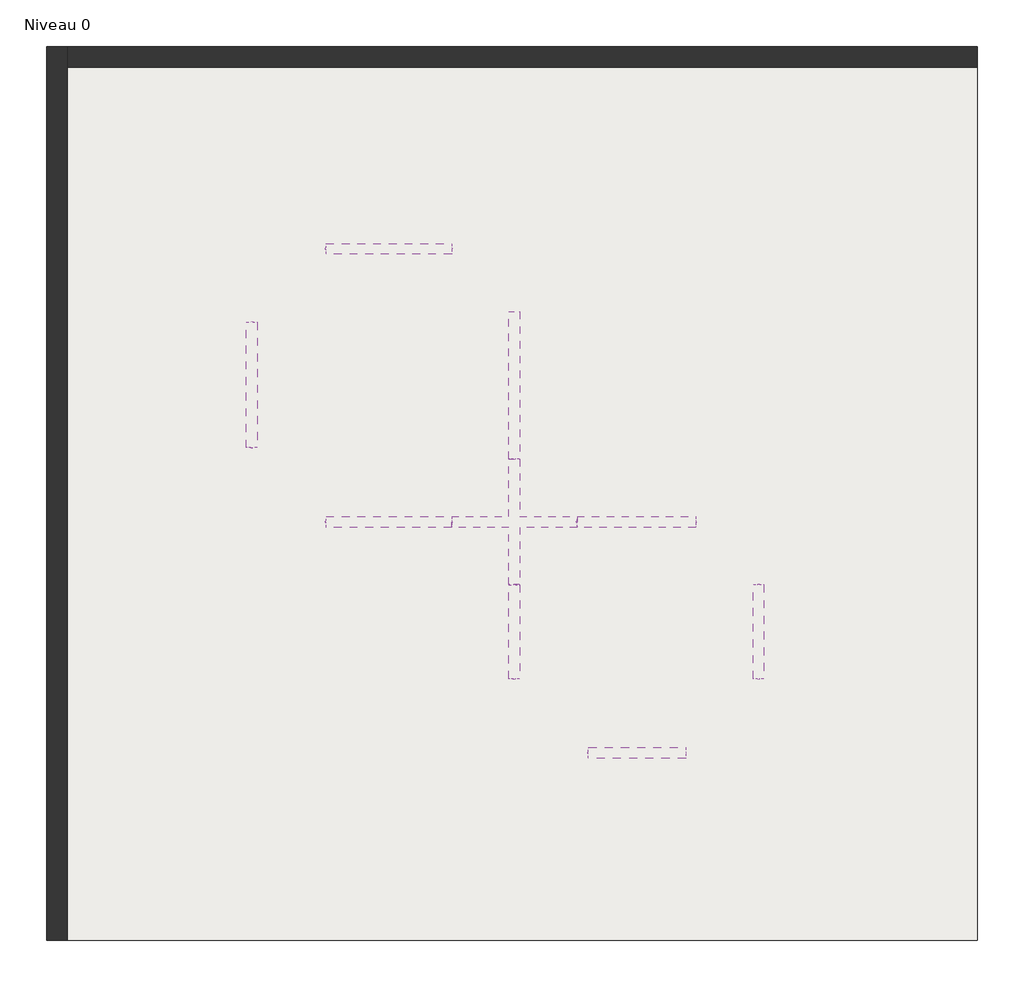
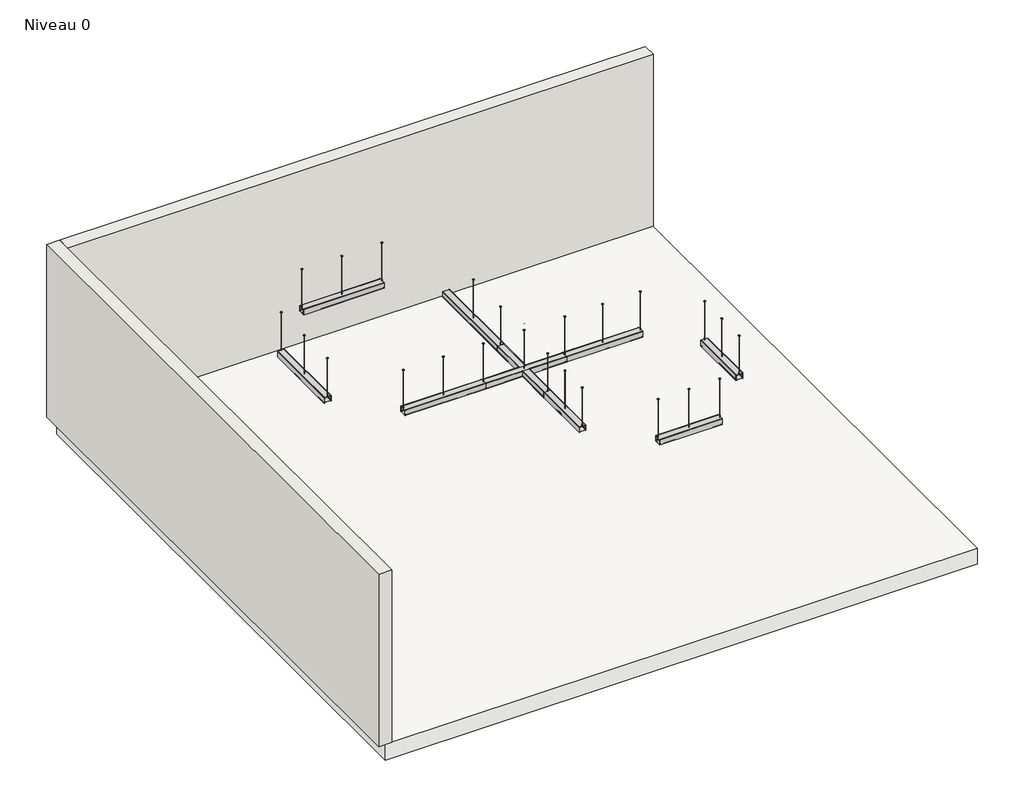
# One storey, incomplete: 9 light fixtures, 2 walls, 1 slab.
"""IFC4 building model written with IfcOpenShell, lengths in millimetres."""

from ifc_helpers import new_model, si_unit, frame, origin, origin_with_axes, place, context, project, spatial, polyline, outline, extrude, faceted_brep, transform, mapped, element, save
from components import lighting_pendant_axis_sketch_4_x_corner_sk4_pendant_custom_45237788, lighting_pendant_axis_sketch_4_x_corner_sk4_pendant_custom_94ffdf92, lighting_pendant_axis_sketch_4_b7173194, lighting_pendant_axis_sketch_4_e7b3e683, lighting_pendant_axis_sketch_4_4e6c729b, lighting_pendant_axis_sketch_4_c0096c62, lighting_pendant_axis_sketch_4_24adb191

model = new_model("IFC4")

# Units and contexts
model_context = context("Model", 3, world=origin())
ifc_project = project(units=[si_unit("LENGTHUNIT", "METRE", prefix="MILLI")], contexts=[model_context])

# Site, building, storey
site = spatial("IfcSite", under=ifc_project)
building = spatial("IfcBuilding", under=site)
storey = spatial("IfcBuildingStorey", under=building, Name="Niveau 0", Elevation=0.0)

# Light fixtures
placement = place(None, origin())
lighting_pendant_axis_sketch_4_x_corner_sk4_pendant_custom_shape = lighting_pendant_axis_sketch_4_x_corner_sk4_pendant_custom_45237788(model_context)
lighting_pendant_axis_sketch_4_x_corner_sk4_pendant_custom_2_shape = lighting_pendant_axis_sketch_4_x_corner_sk4_pendant_custom_94ffdf92(model_context)
element("IfcLightFixture", 1, ObjectType="Lighting-Pendant-Axis-Sketch 4_X Corner : SK4 Pendant Custom Corner", at=placement, inside=storey, context=model_context, shape_type="MappedRepresentation", body=[
    mapped(lighting_pendant_axis_sketch_4_x_corner_sk4_pendant_custom_shape, transform((-1852.5527515, -2628.7184645, 2600.0), x_axis=(1.0, 0.0, 0.0), y_axis=(0.0, -1.0, 0.0), z_axis=(0.0, 0.0, -1.0))),
    mapped(lighting_pendant_axis_sketch_4_x_corner_sk4_pendant_custom_2_shape, transform((-1852.5527515, -2628.7184645, 2600.0), x_axis=(1.0, 0.0, 0.0), y_axis=(0.0, -1.0, 0.0), z_axis=(0.0, 0.0, -1.0))),
])
lighting_pendant_axis_sketch_4_shape = lighting_pendant_axis_sketch_4_b7173194(model_context)
element("IfcLightFixture", 2, ObjectType="Lighting-Pendant-Axis-Sketch_4 : SK4PDI-1400-1400-SO-SO-80-35", at=placement, inside=storey, context=model_context, shape_type="MappedRepresentation", body=[
    mapped(lighting_pendant_axis_sketch_4_shape, transform((-3071.7484158, 23.0415355, 2600.0), x_axis=(1.0, 0.0, 0.0), y_axis=(0.0, -1.0, 0.0), z_axis=(0.0, 0.0, -1.0))),
])
element("IfcLightFixture", 3, ObjectType="Lighting-Pendant-Axis-Sketch_4 : SK4PDI-1400-1400-SO-SO-80-35", at=placement, inside=storey, context=model_context, shape_type="MappedRepresentation", body=[
    mapped(lighting_pendant_axis_sketch_4_shape, transform((-4402.2047515, -1298.2664645, 2600.0), x_axis=(0.0, 1.0, 0.0), y_axis=(1.0, 0.0, 0.0), z_axis=(0.0, 0.0, -1.0))),
])
element("IfcLightFixture", 4, ObjectType="Lighting-Pendant-Axis-Sketch_4 : SK4PDI-1400-1400-SO-SO-80-35", at=placement, inside=storey, context=model_context, shape_type="MappedRepresentation", body=[
    mapped(lighting_pendant_axis_sketch_4_shape, transform((-3071.7527515, -2628.7184645, 2600.0), x_axis=(1.0, 0.0, 0.0), y_axis=(0.0, -1.0, 0.0), z_axis=(0.0, 0.0, -1.0))),
])
lighting_pendant_axis_sketch_4_2_shape = lighting_pendant_axis_sketch_4_e7b3e683(model_context)
element("IfcLightFixture", 5, ObjectType="Lighting-Pendant-Axis-Sketch_4 : SK4PDI-1400-1400-SO-SO-80-35", at=placement, inside=storey, context=model_context, shape_type="MappedRepresentation", body=[
    mapped(lighting_pendant_axis_sketch_4_2_shape, transform((-1852.5527515, -1302.8384645, 2600.0), x_axis=(0.0, 1.0, 0.0), y_axis=(1.0, 0.0, 0.0), z_axis=(0.0, 0.0, -1.0))),
])
lighting_pendant_axis_sketch_4_3_shape = lighting_pendant_axis_sketch_4_4e6c729b(model_context)
element("IfcLightFixture", 6, ObjectType="Lighting-Pendant-Axis-Sketch_4 : SK4PDI-1400-1400-SO-SO-80-35", at=placement, inside=storey, context=model_context, shape_type="MappedRepresentation", body=[
    mapped(lighting_pendant_axis_sketch_4_3_shape, transform((517.2672485, -3695.5184645, 2600.0), x_axis=(0.0, 1.0, 0.0), y_axis=(1.0, 0.0, 0.0), z_axis=(0.0, 0.0, -1.0))),
])
element("IfcLightFixture", 7, ObjectType="Lighting-Pendant-Axis-Sketch_4 : SK4PDI-1400-1400-SO-SO-80-35", at=placement, inside=storey, context=model_context, shape_type="MappedRepresentation", body=[
    mapped(lighting_pendant_axis_sketch_4_3_shape, transform((-1852.5527515, -3697.8265798, 2600.0), x_axis=(0.0, 1.0, 0.0), y_axis=(1.0, 0.0, 0.0), z_axis=(0.0, 0.0, -1.0))),
])
lighting_pendant_axis_sketch_4_4_shape = lighting_pendant_axis_sketch_4_c0096c62(model_context)
element("IfcLightFixture", 8, ObjectType="Lighting-Pendant-Axis-Sketch_4 : SK4PDI-1400-1400-SO-SO-80-35", at=placement, inside=storey, context=model_context, shape_type="MappedRepresentation", body=[
    mapped(lighting_pendant_axis_sketch_4_4_shape, transform((-668.4047515, -2628.7184645, 2600.0), x_axis=(1.0, 0.0, 0.0), y_axis=(0.0, -1.0, 0.0), z_axis=(0.0, 0.0, -1.0))),
])
lighting_pendant_axis_sketch_4_5_shape = lighting_pendant_axis_sketch_4_24adb191(model_context)
element("IfcLightFixture", 9, ObjectType="Lighting-Pendant-Axis-Sketch_4 : SK4PDI-1400-1400-SO-SO-80-35", at=placement, inside=storey, context=model_context, shape_type="MappedRepresentation", body=[
    mapped(lighting_pendant_axis_sketch_4_5_shape, transform((-660.7813066, -4873.5704645, 2600.0), x_axis=(1.0, 0.0, 0.0), y_axis=(0.0, -1.0, 0.0), z_axis=(0.0, 0.0, -1.0))),
])

# Slab
element("IfcSlab", 10, ObjectType="Dalle en béton - 250 mm", at=placement, inside=storey, context=model_context, shape_type="SweptSolid", body=[
    extrude(outline(polyline([(2643.9187103, 1889.1844532), (2643.9187103, -6692.8155468), (-6295.2812897, -6692.8155468), (-6295.2812897, 1889.1844532), (2643.9187103, 1889.1844532)])), frame((0.0, 0.0, -250.0), z_axis=(0.0, 0.0, 1.0), x_axis=(1.0, 0.0, 0.0)), (0.0, 0.0, 1.0), 250.0),
])

# Walls
element("IfcWall", 11, ObjectType="Générique - Ext. 200 mm", at=placement, inside=storey, context=model_context, shape_type="Brep", body=[
    faceted_brep([(-6195.2812897, -6692.8155468, 0.0), (-6195.2812897, 1789.1844532, 0.0), (-6195.2812897, 1989.1844532, 0.0), (-6195.2812897, 1989.1844532, 2750.0), (-6195.2812897, 1789.1844532, 2750.0), (-6195.2812897, -6692.8155468, 2750.0), (-6395.2812897, -6692.8155468, 0.0), (-6395.2812897, -6692.8155468, 2750.0), (-6395.2812897, 1989.1844532, 2750.0), (-6395.2812897, 1989.1844532, 0.0)], [[[0, 1, 2, 3, 4, 5]], [[6, 7, 8, 9]], [[2, 1, 0, 6, 9]], [[5, 4, 3, 8, 7]], [[0, 5, 7, 6]], [[3, 2, 9, 8]]]),
])
element("IfcWall", 12, ObjectType="Générique - Ext. 200 mm", at=placement, inside=storey, context=model_context, shape_type="SweptSolid", body=[
    extrude(outline(polyline([(2643.9187103, 1789.1844532), (-6195.2812897, 1789.1844532), (-6195.2812897, 1989.1844532), (2643.9187103, 1989.1844532), (2643.9187103, 1789.1844532)])), origin_with_axes(), (0.0, 0.0, 1.0), 2750.0),
])

save(model, "model.ifc")
